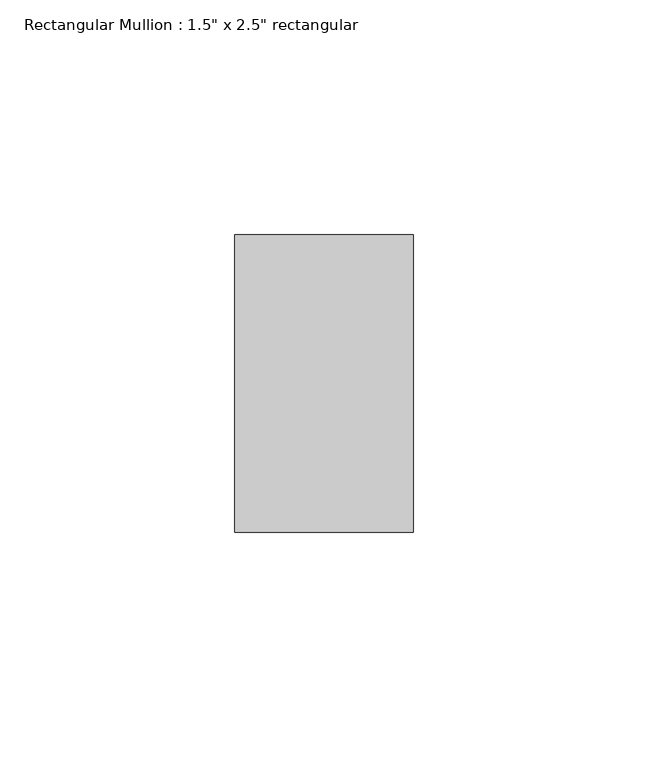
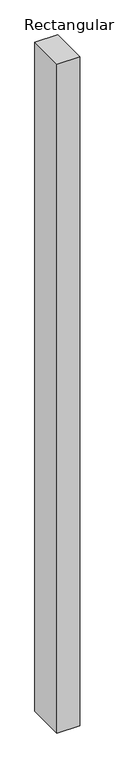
"""IFC4 building model written with IfcOpenShell, lengths in millimetres: member geometry."""

from ifc_helpers import new_model, si_unit, frame, origin, place, context, project, spatial, polyline, outline, extrude, source, transform, mapped, element, save


def member_44b84d8f(model_context):
    return source(origin(), model_context, "Body", "SweptSolid", [
        extrude(outline(polyline([(19.05, 31.75), (19.05, -31.75), (-19.05, -31.75), (-19.05, 31.75), (19.05, 31.75)])), frame((0.0, 0.0, -1179.110149), z_axis=(0.0, 0.0, 1.0), x_axis=(1.0, 0.0, 0.0)), (0.0, 0.0, 1.0), 1179.110149),
    ])


if __name__ == "__main__":
    model = new_model("IFC4")
    model_context = context("Model", 3, world=origin())
    ifc_project = project(units=[si_unit("LENGTHUNIT", "METRE", prefix="MILLI")], contexts=[model_context])
    site = spatial("IfcSite", under=ifc_project)
    building = spatial("IfcBuilding", under=site)
    placement = place(None, origin())
    member_shape = member_44b84d8f(model_context)
    element("IfcMember", 1, ObjectType="Rectangular Mullion : 1.5\" x 2.5\" rectangular", at=placement, inside=building, context=model_context, shape_type="MappedRepresentation", body=[
        mapped(member_shape, transform((0.0, 0.0, 0.0), x_axis=(1.0, 0.0, 0.0), y_axis=(0.0, 1.0, 0.0), z_axis=(0.0, 0.0, 1.0))),
    ])
    save(model, "model.ifc")
